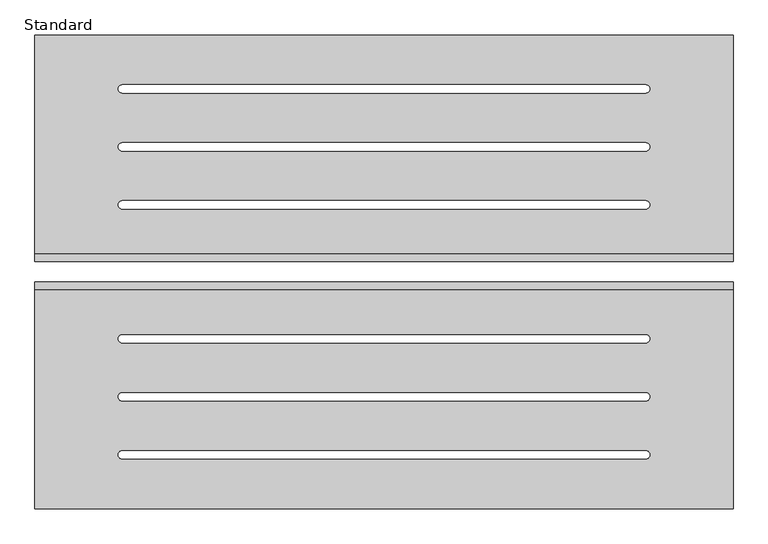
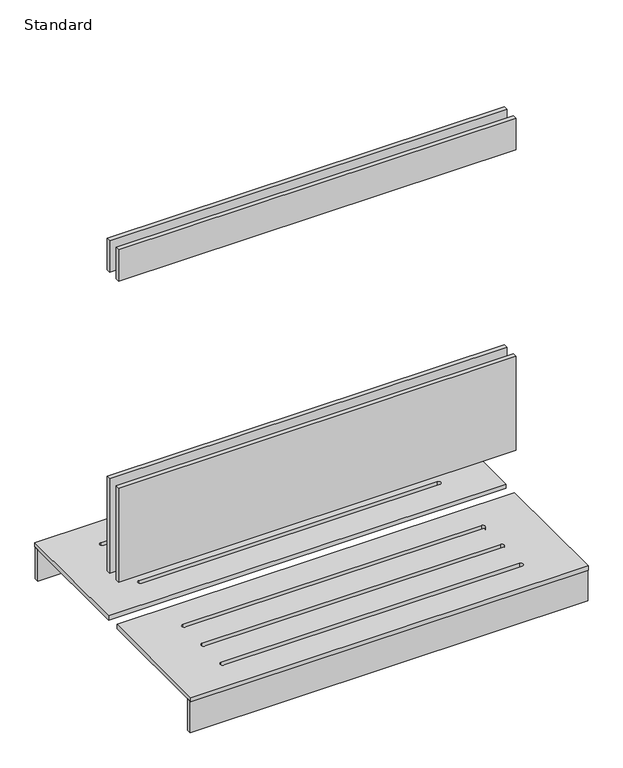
"""IFC4 building model written with IfcOpenShell, lengths in millimetres: furniture geometry, X_Bench-Island-Duracube-Standard : Standard."""

from ifc_helpers import new_model, si_unit, point, frame, frame_2d, origin, place, context, project, spatial, polyline, circle_curve, trimmed, segment, composite_curve, outline, extrude, source, transform, mapped, element, save


def standard_e0fe0424(model_context):
    return source(origin(), model_context, "Body", "SweptSolid", [
        extrude(outline(polyline([(644.7003264, -377.0), (644.7003264, -390.0), (-555.2996736, -390.0), (-555.2996736, -377.0), (644.7003264, -377.0)])), frame((0.0, 0.0, 1570.0), z_axis=(0.0, 0.0, 1.0), x_axis=(1.0, 0.0, 0.0)), (0.0, 0.0, 1.0), 100.0),
        extrude(outline(polyline([(644.7003264, -425.0), (644.7003264, -438.0), (-555.2996736, -438.0), (-555.2996736, -425.0), (644.7003264, -425.0)])), frame((0.0, 0.0, 1570.0), z_axis=(0.0, 0.0, 1.0), x_axis=(1.0, 0.0, 0.0)), (0.0, 0.0, 1.0), 100.0),
        extrude(outline(polyline([(644.7003264, -2.5), (644.7003264, -15.5), (-555.2996736, -15.5), (-555.2996736, -2.5), (644.7003264, -2.5)])), frame((0.0, 0.0, 357.0), z_axis=(0.0, 0.0, 1.0), x_axis=(1.0, 0.0, 0.0)), (0.0, 0.0, 1.0), 100.0),
        extrude(outline(polyline([(644.7003264, -799.5), (644.7003264, -812.5), (-555.2996736, -812.5), (-555.2996736, -799.5), (644.7003264, -799.5)])), frame((0.0, 0.0, 357.0), z_axis=(0.0, 0.0, 1.0), x_axis=(1.0, 0.0, 0.0)), (0.0, 0.0, 1.0), 100.0),
        extrude(outline(polyline([(644.7003264, -425.0), (644.7003264, -438.0), (-555.2996736, -438.0), (-555.2996736, -425.0), (644.7003264, -425.0)])), frame((0.0, 0.0, 610.0), z_axis=(0.0, 0.0, 1.0), x_axis=(1.0, 0.0, 0.0)), (0.0, 0.0, 1.0), 300.0),
        extrude(outline(polyline([(644.7003264, -377.0), (644.7003264, -390.0), (-555.2996736, -390.0), (-555.2996736, -377.0), (644.7003264, -377.0)])), frame((0.0, 0.0, 610.0), z_axis=(0.0, 0.0, 1.0), x_axis=(1.0, 0.0, 0.0)), (0.0, 0.0, 1.0), 300.0),
        extrude(outline(polyline([(644.7003264, 0.0), (644.7003264, -385.0), (-555.2996736, -385.0), (-555.2996736, 0.0), (644.7003264, 0.0)]), holes=[composite_curve([segment(polyline([(494.7003264, -85.75), (-405.2996736, -85.75)]), True, "CONTINUOUS"), segment(trimmed(circle_curve(frame_2d((-405.2996736, -92.75)), 7.0), [point((-405.2996736, -85.75))], [point((-405.2996736, -99.75))], True, "CARTESIAN"), True, "CONTINUOUS"), segment(polyline([(-405.2996736, -99.75), (494.7003264, -99.75)]), True, "CONTINUOUS"), segment(trimmed(circle_curve(frame_2d((494.7003264, -92.75)), 7.0), [point((494.7003264, -99.75))], [point((494.7003264, -85.75))], True, "CARTESIAN"), True, "CONTINUOUS")], self_intersect=False), composite_curve([segment(polyline([(494.7003264, -185.5), (-405.2996736, -185.5)]), True, "CONTINUOUS"), segment(trimmed(circle_curve(frame_2d((-405.2996736, -192.5)), 7.0), [point((-405.2996736, -185.5))], [point((-405.2996736, -199.5))], True, "CARTESIAN"), True, "CONTINUOUS"), segment(polyline([(-405.2996736, -199.5), (494.7003264, -199.5)]), True, "CONTINUOUS"), segment(trimmed(circle_curve(frame_2d((494.7003264, -192.5)), 7.0), [point((494.7003264, -199.5))], [point((494.7003264, -185.5))], True, "CARTESIAN"), True, "CONTINUOUS")], self_intersect=False), composite_curve([segment(polyline([(494.7003264, -285.25), (-405.2996736, -285.25)]), True, "CONTINUOUS"), segment(trimmed(circle_curve(frame_2d((-405.2996736, -292.25)), 7.0), [point((-405.2996736, -285.25))], [point((-405.2996736, -299.25))], True, "CARTESIAN"), True, "CONTINUOUS"), segment(polyline([(-405.2996736, -299.25), (494.7003264, -299.25)]), True, "CONTINUOUS"), segment(trimmed(circle_curve(frame_2d((494.7003264, -292.25)), 7.0), [point((494.7003264, -299.25))], [point((494.7003264, -285.25))], True, "CARTESIAN"), True, "CONTINUOUS")], self_intersect=False)]), frame((0.0, 0.0, 457.0), z_axis=(0.0, 0.0, 1.0), x_axis=(1.0, 0.0, 0.0)), (0.0, 0.0, 1.0), 13.0),
        extrude(outline(polyline([(644.7003264, -815.0), (-555.2996736, -815.0), (-555.2996736, -430.0), (644.7003264, -430.0), (644.7003264, -815.0)]), holes=[composite_curve([segment(polyline([(494.7003264, -515.75), (-405.2996736, -515.75)]), True, "CONTINUOUS"), segment(trimmed(circle_curve(frame_2d((-405.2996736, -522.75)), 7.0), [point((-405.2996736, -515.75))], [point((-405.2996736, -529.75))], True, "CARTESIAN"), True, "CONTINUOUS"), segment(polyline([(-405.2996736, -529.75), (494.7003264, -529.75)]), True, "CONTINUOUS"), segment(trimmed(circle_curve(frame_2d((494.7003264, -522.75)), 7.0), [point((494.7003264, -529.75))], [point((494.7003264, -515.75))], True, "CARTESIAN"), True, "CONTINUOUS")], self_intersect=False), composite_curve([segment(polyline([(494.7003264, -615.5), (-405.2996736, -615.5)]), True, "CONTINUOUS"), segment(trimmed(circle_curve(frame_2d((-405.2996736, -622.5)), 7.0), [point((-405.2996736, -615.5))], [point((-405.2996736, -629.5))], True, "CARTESIAN"), True, "CONTINUOUS"), segment(polyline([(-405.2996736, -629.5), (494.7003264, -629.5)]), True, "CONTINUOUS"), segment(trimmed(circle_curve(frame_2d((494.7003264, -622.5)), 7.0), [point((494.7003264, -629.5))], [point((494.7003264, -615.5))], True, "CARTESIAN"), True, "CONTINUOUS")], self_intersect=False), composite_curve([segment(polyline([(494.7003264, -715.25), (-405.2996736, -715.25)]), True, "CONTINUOUS"), segment(trimmed(circle_curve(frame_2d((-405.2996736, -722.25)), 7.0), [point((-405.2996736, -715.25))], [point((-405.2996736, -729.25))], True, "CARTESIAN"), True, "CONTINUOUS"), segment(polyline([(-405.2996736, -729.25), (494.7003264, -729.25)]), True, "CONTINUOUS"), segment(trimmed(circle_curve(frame_2d((494.7003264, -722.25)), 7.0), [point((494.7003264, -729.25))], [point((494.7003264, -715.25))], True, "CARTESIAN"), True, "CONTINUOUS")], self_intersect=False)]), frame((0.0, 0.0, 457.0), z_axis=(0.0, 0.0, 1.0), x_axis=(1.0, 0.0, 0.0)), (0.0, 0.0, 1.0), 13.0),
    ])


if __name__ == "__main__":
    model = new_model("IFC4")
    model_context = context("Model", 3, world=origin())
    ifc_project = project(units=[si_unit("LENGTHUNIT", "METRE", prefix="MILLI")], contexts=[model_context])
    site = spatial("IfcSite", under=ifc_project)
    building = spatial("IfcBuilding", under=site)
    placement = place(None, origin())
    standard_shape = standard_e0fe0424(model_context)
    element("IfcFurniture", 1, ObjectType="X_Bench-Island-Duracube-Standard : Standard", at=placement, inside=building, context=model_context, shape_type="MappedRepresentation", body=[
        mapped(standard_shape, transform((0.0, 0.0, 0.0), x_axis=(1.0, 0.0, 0.0), y_axis=(0.0, 1.0, 0.0), z_axis=(0.0, 0.0, 1.0))),
    ])
    save(model, "model.ifc")
